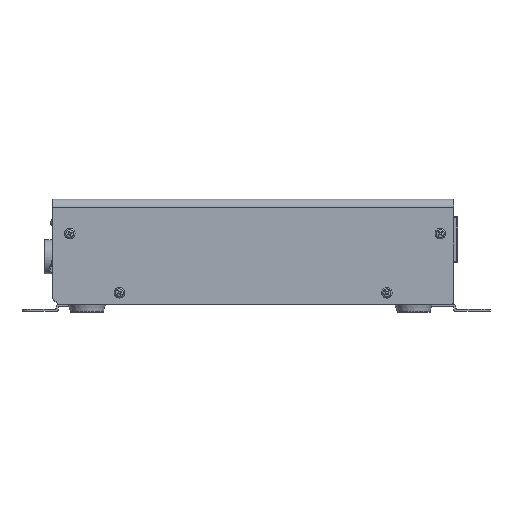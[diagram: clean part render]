
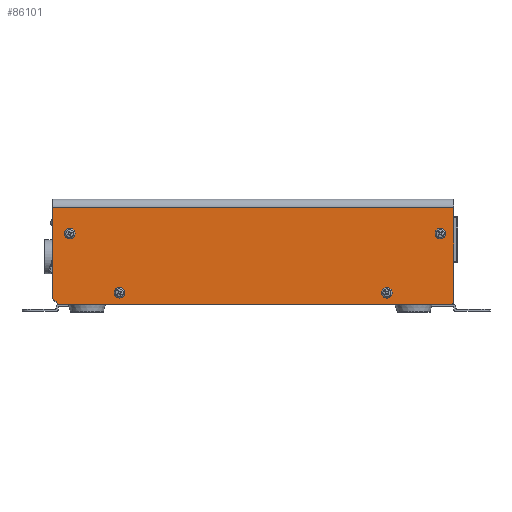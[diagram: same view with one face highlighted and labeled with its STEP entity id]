
A CAD part, top view. The second image highlights one B-rep face of the part: STEP entity #86101.
In plain terms, the highlighted planar face has unit normal (0, 0, 1).
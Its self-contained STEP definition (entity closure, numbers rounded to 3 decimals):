
#254 = DIRECTION ( 'NONE',  ( 0., 1., 0. ) ) ;
#1911 = CARTESIAN_POINT ( 'NONE',  ( 207., 55., 58. ) ) ;
#3091 = CARTESIAN_POINT ( 'NONE',  ( -3., 50.5, 58. ) ) ;
#5187 = CARTESIAN_POINT ( 'NONE',  ( 6., 37., 58. ) ) ;
#9885 = VERTEX_POINT ( 'NONE', #3091 ) ;
#10548 = DIRECTION ( 'NONE',  ( 0., 0., 1. ) ) ;
#11777 = ORIENTED_EDGE ( 'NONE', *, *, #85440, .F. ) ;
#11804 = LINE ( 'NONE', #46256, #84515 ) ;
#13894 = LINE ( 'NONE', #42410, #31562 ) ;
#14073 = LINE ( 'NONE', #84441, #63958 ) ;
#15595 = CARTESIAN_POINT ( 'NONE',  ( 6., 38.8, 58. ) ) ;
#15693 = DIRECTION ( 'NONE',  ( 0., 0., 1. ) ) ;
#15996 = VERTEX_POINT ( 'NONE', #84064 ) ;
#16484 = VERTEX_POINT ( 'NONE', #86431 ) ;
#17953 = VERTEX_POINT ( 'NONE', #88881 ) ;
#20235 = ORIENTED_EDGE ( 'NONE', *, *, #32437, .T. ) ;
#20678 = ORIENTED_EDGE ( 'NONE', *, *, #90167, .F. ) ;
#21676 = DIRECTION ( 'NONE',  ( 0., -1., 0. ) ) ;
#22181 = AXIS2_PLACEMENT_3D ( 'NONE', #89461, #83906, #254 ) ;
#24853 = CARTESIAN_POINT ( 'NONE',  ( -3., 55., 58. ) ) ;
#24919 = DIRECTION ( 'NONE',  ( 0., 0., 1. ) ) ;
#25126 = CIRCLE ( 'NONE', #22181, 1.8 ) ;
#25984 = VERTEX_POINT ( 'NONE', #61654 ) ;
#26079 = EDGE_LOOP ( 'NONE', ( #34688, #42842, #41715, #77778, #20235, #45393 ) ) ;
#26709 = AXIS2_PLACEMENT_3D ( 'NONE', #42863, #15693, #21676 ) ;
#27900 = EDGE_CURVE ( 'NONE', #16484, #16484, #55497, .T. ) ;
#29765 = EDGE_LOOP ( 'NONE', ( #68506 ) ) ;
#29768 = VECTOR ( 'NONE', #39159, 1000. ) ;
#29833 = DIRECTION ( 'NONE',  ( 0., 0., -1. ) ) ;
#31562 = VECTOR ( 'NONE', #48820, 1000. ) ;
#32437 = EDGE_CURVE ( 'NONE', #9885, #15996, #40049, .T. ) ;
#34688 = ORIENTED_EDGE ( 'NONE', *, *, #83940, .F. ) ;
#37353 = EDGE_LOOP ( 'NONE', ( #20678 ) ) ;
#39159 = DIRECTION ( 'NONE',  ( 0., -1., 0. ) ) ;
#39768 = AXIS2_PLACEMENT_3D ( 'NONE', #5187, #24919, #52991 ) ;
#40049 = LINE ( 'NONE', #24853, #29768 ) ;
#41468 = CIRCLE ( 'NONE', #26709, 1. ) ;
#41619 = DIRECTION ( 'NONE',  ( 0., 0., 1. ) ) ;
#41715 = ORIENTED_EDGE ( 'NONE', *, *, #75791, .F. ) ;
#42022 = CIRCLE ( 'NONE', #49351, 1.8 ) ;
#42322 = VECTOR ( 'NONE', #67007, 1000. ) ;
#42410 = CARTESIAN_POINT ( 'NONE',  ( 207., 0., 58. ) ) ;
#42842 = ORIENTED_EDGE ( 'NONE', *, *, #82286, .T. ) ;
#42863 = CARTESIAN_POINT ( 'NONE',  ( 206., 1., 58. ) ) ;
#43689 = FACE_BOUND ( 'NONE', #37353, .T. ) ;
#45393 = ORIENTED_EDGE ( 'NONE', *, *, #58033, .T. ) ;
#46256 = CARTESIAN_POINT ( 'NONE',  ( 0., 0., 58. ) ) ;
#46720 = LINE ( 'NONE', #59202, #42322 ) ;
#48475 = CARTESIAN_POINT ( 'NONE',  ( 32., 6., 58. ) ) ;
#48820 = DIRECTION ( 'NONE',  ( -1., 0., 0. ) ) ;
#49351 = AXIS2_PLACEMENT_3D ( 'NONE', #52342, #10548, #50972 ) ;
#49649 = FACE_BOUND ( 'NONE', #88916, .T. ) ;
#50972 = DIRECTION ( 'NONE',  ( 0., 1., 0. ) ) ;
#52342 = CARTESIAN_POINT ( 'NONE',  ( 200., 37., 58. ) ) ;
#52497 = AXIS2_PLACEMENT_3D ( 'NONE', #1911, #29833, #63877 ) ;
#52991 = DIRECTION ( 'NONE',  ( 0., 1., 0. ) ) ;
#53177 = DIRECTION ( 'NONE',  ( 0.707, -0.707, 0. ) ) ;
#54967 = DIRECTION ( 'NONE',  ( 0., 1., 0. ) ) ;
#55497 = CIRCLE ( 'NONE', #89344, 1.8 ) ;
#56574 = FACE_BOUND ( 'NONE', #29765, .T. ) ;
#57690 = CARTESIAN_POINT ( 'NONE',  ( 0., 0., 58. ) ) ;
#58033 = EDGE_CURVE ( 'NONE', #15996, #69425, #11804, .T. ) ;
#59202 = CARTESIAN_POINT ( 'NONE',  ( 207., 50.5, 58. ) ) ;
#59268 = VERTEX_POINT ( 'NONE', #15595 ) ;
#61654 = CARTESIAN_POINT ( 'NONE',  ( 207., 50.5, 58. ) ) ;
#63640 = CARTESIAN_POINT ( 'NONE',  ( 172., 7.8, 58. ) ) ;
#63753 = EDGE_LOOP ( 'NONE', ( #11777 ) ) ;
#63877 = DIRECTION ( 'NONE',  ( 0., -1., 0. ) ) ;
#63958 = VECTOR ( 'NONE', #84906, 1000. ) ;
#66125 = EDGE_CURVE ( 'NONE', #71503, #71503, #25126, .T. ) ;
#66748 = VERTEX_POINT ( 'NONE', #67850 ) ;
#67007 = DIRECTION ( 'NONE',  ( -1., 0., 0. ) ) ;
#67850 = CARTESIAN_POINT ( 'NONE',  ( 207., 1., 58. ) ) ;
#68506 = ORIENTED_EDGE ( 'NONE', *, *, #66125, .F. ) ;
#69425 = VERTEX_POINT ( 'NONE', #57690 ) ;
#71306 = FACE_OUTER_BOUND ( 'NONE', #26079, .T. ) ;
#71503 = VERTEX_POINT ( 'NONE', #63640 ) ;
#72075 = CIRCLE ( 'NONE', #39768, 1.8 ) ;
#72211 = PLANE ( 'NONE',  #52497 ) ;
#75791 = EDGE_CURVE ( 'NONE', #25984, #66748, #14073, .T. ) ;
#77738 = CARTESIAN_POINT ( 'NONE',  ( 200., 38.8, 58. ) ) ;
#77778 = ORIENTED_EDGE ( 'NONE', *, *, #88859, .T. ) ;
#78758 = ORIENTED_EDGE ( 'NONE', *, *, #27900, .F. ) ;
#79131 = FACE_BOUND ( 'NONE', #63753, .T. ) ;
#82286 = EDGE_CURVE ( 'NONE', #17953, #66748, #41468, .T. ) ;
#83906 = DIRECTION ( 'NONE',  ( 0., 0., 1. ) ) ;
#83940 = EDGE_CURVE ( 'NONE', #17953, #69425, #13894, .T. ) ;
#84064 = CARTESIAN_POINT ( 'NONE',  ( -3., 3., 58. ) ) ;
#84441 = CARTESIAN_POINT ( 'NONE',  ( 207., 55., 58. ) ) ;
#84515 = VECTOR ( 'NONE', #53177, 1000. ) ;
#84634 = VERTEX_POINT ( 'NONE', #77738 ) ;
#84906 = DIRECTION ( 'NONE',  ( 0., -1., 0. ) ) ;
#85440 = EDGE_CURVE ( 'NONE', #84634, #84634, #42022, .T. ) ;
#86101 = ADVANCED_FACE ( 'NONE', ( #79131, #43689, #56574, #49649, #71306 ), #72211, .F. ) ;
#86431 = CARTESIAN_POINT ( 'NONE',  ( 32., 7.8, 58. ) ) ;
#88859 = EDGE_CURVE ( 'NONE', #25984, #9885, #46720, .T. ) ;
#88881 = CARTESIAN_POINT ( 'NONE',  ( 206., 0., 58. ) ) ;
#88916 = EDGE_LOOP ( 'NONE', ( #78758 ) ) ;
#89344 = AXIS2_PLACEMENT_3D ( 'NONE', #48475, #41619, #54967 ) ;
#89461 = CARTESIAN_POINT ( 'NONE',  ( 172., 6., 58. ) ) ;
#90167 = EDGE_CURVE ( 'NONE', #59268, #59268, #72075, .T. ) ;
